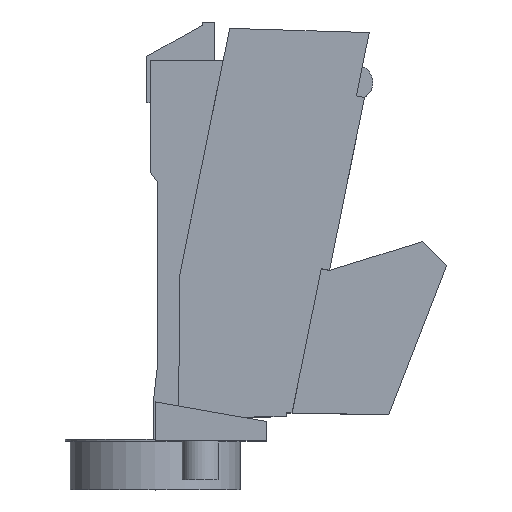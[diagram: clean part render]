
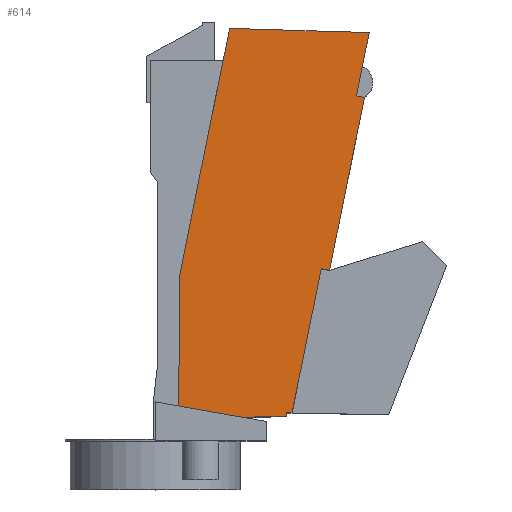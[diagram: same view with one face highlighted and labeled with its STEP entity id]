
A CAD part, top view. The second image highlights one B-rep face of the part: STEP entity #614.
In plain terms, the highlighted planar face has unit normal (0, 0, 1).
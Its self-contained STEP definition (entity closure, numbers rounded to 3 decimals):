
#30 = EDGE_CURVE ( 'NONE', #941, #241, #978, .T. ) ;
#51 = VECTOR ( 'NONE', #1913, 1000. ) ;
#64 = CARTESIAN_POINT ( 'NONE',  ( 23.8, -33.58, 12.1 ) ) ;
#71 = CARTESIAN_POINT ( 'NONE',  ( 32.38, -33.48, 12.1 ) ) ;
#77 = CARTESIAN_POINT ( 'NONE',  ( 20.765, 46.271, 12.1 ) ) ;
#81 = CARTESIAN_POINT ( 'NONE',  ( 32.38, -32.714, 12.1 ) ) ;
#118 = CARTESIAN_POINT ( 'NONE',  ( 23.835, -36.58, 12.1 ) ) ;
#146 = CARTESIAN_POINT ( 'NONE',  ( 23.835, -36.58, 12.1 ) ) ;
#185 = VECTOR ( 'NONE', #546, 1000. ) ;
#202 = ORIENTED_EDGE ( 'NONE', *, *, #999, .T. ) ;
#233 = EDGE_CURVE ( 'NONE', #1717, #1753, #429, .T. ) ;
#241 = VERTEX_POINT ( 'NONE', #71 ) ;
#244 = CARTESIAN_POINT ( 'NONE',  ( 10.52, -4.22, 12.1 ) ) ;
#259 = CARTESIAN_POINT ( 'NONE',  ( 41.255, -3.443, 12.1 ) ) ;
#265 = EDGE_CURVE ( 'NONE', #398, #1145, #1603, .T. ) ;
#274 = CARTESIAN_POINT ( 'NONE',  ( 41.255, -3.443, 12.1 ) ) ;
#286 = VECTOR ( 'NONE', #922, 1000. ) ;
#292 = CARTESIAN_POINT ( 'NONE',  ( 48.023, 38.462, 12.1 ) ) ;
#320 = LINE ( 'NONE', #292, #286 ) ;
#324 = CARTESIAN_POINT ( 'NONE',  ( 33.577, -32.735, 12.1 ) ) ;
#338 = DIRECTION ( 'NONE',  ( 1., 0.012, 0. ) ) ;
#372 = LINE ( 'NONE', #1283, #1612 ) ;
#384 = EDGE_CURVE ( 'NONE', #398, #1403, #635, .T. ) ;
#394 = LINE ( 'NONE', #81, #1357 ) ;
#398 = VERTEX_POINT ( 'NONE', #1731 ) ;
#401 = LINE ( 'NONE', #274, #185 ) ;
#412 = VECTOR ( 'NONE', #1058, 1000. ) ;
#428 = LINE ( 'NONE', #586, #412 ) ;
#429 = LINE ( 'NONE', #244, #1128 ) ;
#433 = ORIENTED_EDGE ( 'NONE', *, *, #1143, .T. ) ;
#447 = CARTESIAN_POINT ( 'NONE',  ( 32.38, -32.714, 12.1 ) ) ;
#462 = ORIENTED_EDGE ( 'NONE', *, *, #928, .T. ) ;
#546 = DIRECTION ( 'NONE',  ( -0.199, -0.98, 0. ) ) ;
#577 = DIRECTION ( 'NONE',  ( -1., 0., 0. ) ) ;
#586 = CARTESIAN_POINT ( 'NONE',  ( 49.433, 45.41, 12.1 ) ) ;
#610 = CARTESIAN_POINT ( 'NONE',  ( 20.765, 46.271, 12.1 ) ) ;
#614 = ADVANCED_FACE ( 'NONE', ( #886 ), #1339, .F. ) ;
#635 = LINE ( 'NONE', #1706, #1323 ) ;
#645 = DIRECTION ( 'NONE',  ( 0.98, -0.199, 0. ) ) ;
#653 = CARTESIAN_POINT ( 'NONE',  ( 3.759, 4.165, 12.1 ) ) ;
#656 = ORIENTED_EDGE ( 'NONE', *, *, #1501, .T. ) ;
#659 = LINE ( 'NONE', #77, #1579 ) ;
#711 = ORIENTED_EDGE ( 'NONE', *, *, #233, .T. ) ;
#742 = EDGE_CURVE ( 'NONE', #1184, #1917, #1840, .T. ) ;
#776 = ORIENTED_EDGE ( 'NONE', *, *, #742, .T. ) ;
#851 = CARTESIAN_POINT ( 'NONE',  ( 48.023, 38.462, 12.1 ) ) ;
#866 = CARTESIAN_POINT ( 'NONE',  ( 10.52, -4.22, 12.1 ) ) ;
#886 = FACE_OUTER_BOUND ( 'NONE', #1796, .T. ) ;
#922 = DIRECTION ( 'NONE',  ( 0.199, 0.98, 0. ) ) ;
#928 = EDGE_CURVE ( 'NONE', #1226, #1768, #394, .T. ) ;
#941 = VERTEX_POINT ( 'NONE', #1009 ) ;
#945 = DIRECTION ( 'NONE',  ( -0.199, -0.98, 0. ) ) ;
#952 = EDGE_CURVE ( 'NONE', #1396, #1753, #1923, .T. ) ;
#978 = LINE ( 'NONE', #64, #1039 ) ;
#999 = EDGE_CURVE ( 'NONE', #241, #1226, #372, .T. ) ;
#1007 = VECTOR ( 'NONE', #1325, 1000. ) ;
#1009 = CARTESIAN_POINT ( 'NONE',  ( 23.8, -33.58, 12.1 ) ) ;
#1039 = VECTOR ( 'NONE', #338, 1000. ) ;
#1058 = DIRECTION ( 'NONE',  ( -1., 0.03, 0. ) ) ;
#1060 = DIRECTION ( 'NONE',  ( 0., 0., -1. ) ) ;
#1063 = ORIENTED_EDGE ( 'NONE', *, *, #384, .F. ) ;
#1064 = CARTESIAN_POINT ( 'NONE',  ( 23.302, -33.628, 12.1 ) ) ;
#1107 = EDGE_CURVE ( 'NONE', #1145, #1814, #428, .T. ) ;
#1128 = VECTOR ( 'NONE', #1157, 1000. ) ;
#1143 = EDGE_CURVE ( 'NONE', #1768, #1184, #320, .T. ) ;
#1145 = VERTEX_POINT ( 'NONE', #1770 ) ;
#1157 = DIRECTION ( 'NONE',  ( -0.009, -1., 0. ) ) ;
#1184 = VERTEX_POINT ( 'NONE', #1195 ) ;
#1195 = CARTESIAN_POINT ( 'NONE',  ( 39.589, -3.105, 12.1 ) ) ;
#1226 = VERTEX_POINT ( 'NONE', #447 ) ;
#1283 = CARTESIAN_POINT ( 'NONE',  ( 32.38, -33.48, 12.1 ) ) ;
#1295 = DIRECTION ( 'NONE',  ( 1., -0.017, 0. ) ) ;
#1323 = VECTOR ( 'NONE', #645, 1000. ) ;
#1325 = DIRECTION ( 'NONE',  ( -0.985, 0.174, 0. ) ) ;
#1329 = AXIS2_PLACEMENT_3D ( 'NONE', #118, #1439, #577 ) ;
#1339 = PLANE ( 'NONE',  #1414 ) ;
#1357 = VECTOR ( 'NONE', #1295, 1000. ) ;
#1396 = VERTEX_POINT ( 'NONE', #1064 ) ;
#1403 = VERTEX_POINT ( 'NONE', #1670 ) ;
#1414 = AXIS2_PLACEMENT_3D ( 'NONE', #146, #1060, #1505 ) ;
#1434 = ORIENTED_EDGE ( 'NONE', *, *, #30, .T. ) ;
#1439 = DIRECTION ( 'NONE',  ( 0., 0., -1. ) ) ;
#1464 = DIRECTION ( 'NONE',  ( 0., 1., 0. ) ) ;
#1501 = EDGE_CURVE ( 'NONE', #1814, #1717, #659, .T. ) ;
#1505 = DIRECTION ( 'NONE',  ( -1., 0., 0. ) ) ;
#1517 = ORIENTED_EDGE ( 'NONE', *, *, #952, .F. ) ;
#1575 = VECTOR ( 'NONE', #1849, 1000. ) ;
#1579 = VECTOR ( 'NONE', #945, 1000. ) ;
#1603 = LINE ( 'NONE', #851, #51 ) ;
#1612 = VECTOR ( 'NONE', #1464, 1000. ) ;
#1615 = CIRCLE ( 'NONE', #1329, 3. ) ;
#1658 = EDGE_CURVE ( 'NONE', #1403, #1917, #401, .T. ) ;
#1670 = CARTESIAN_POINT ( 'NONE',  ( 48.457, 32.051, 12.1 ) ) ;
#1684 = CARTESIAN_POINT ( 'NONE',  ( 10.279, -31.331, 12.1 ) ) ;
#1688 = ORIENTED_EDGE ( 'NONE', *, *, #1963, .T. ) ;
#1706 = CARTESIAN_POINT ( 'NONE',  ( 10.961, 39.659, 12.1 ) ) ;
#1717 = VERTEX_POINT ( 'NONE', #866 ) ;
#1731 = CARTESIAN_POINT ( 'NONE',  ( 46.791, 32.389, 12.1 ) ) ;
#1753 = VERTEX_POINT ( 'NONE', #1684 ) ;
#1768 = VERTEX_POINT ( 'NONE', #324 ) ;
#1770 = CARTESIAN_POINT ( 'NONE',  ( 49.433, 45.41, 12.1 ) ) ;
#1796 = EDGE_LOOP ( 'NONE', ( #1517, #1688, #1434, #202, #462, #433, #776, #1960, #1063, #1884, #1943, #656, #711 ) ) ;
#1814 = VERTEX_POINT ( 'NONE', #610 ) ;
#1840 = LINE ( 'NONE', #653, #1575 ) ;
#1849 = DIRECTION ( 'NONE',  ( 0.98, -0.199, 0. ) ) ;
#1884 = ORIENTED_EDGE ( 'NONE', *, *, #265, .T. ) ;
#1901 = CARTESIAN_POINT ( 'NONE',  ( 24.324, -33.808, 12.1 ) ) ;
#1913 = DIRECTION ( 'NONE',  ( 0.199, 0.98, 0. ) ) ;
#1917 = VERTEX_POINT ( 'NONE', #259 ) ;
#1923 = LINE ( 'NONE', #1901, #1007 ) ;
#1943 = ORIENTED_EDGE ( 'NONE', *, *, #1107, .T. ) ;
#1960 = ORIENTED_EDGE ( 'NONE', *, *, #1658, .F. ) ;
#1963 = EDGE_CURVE ( 'NONE', #1396, #941, #1615, .T. ) ;
